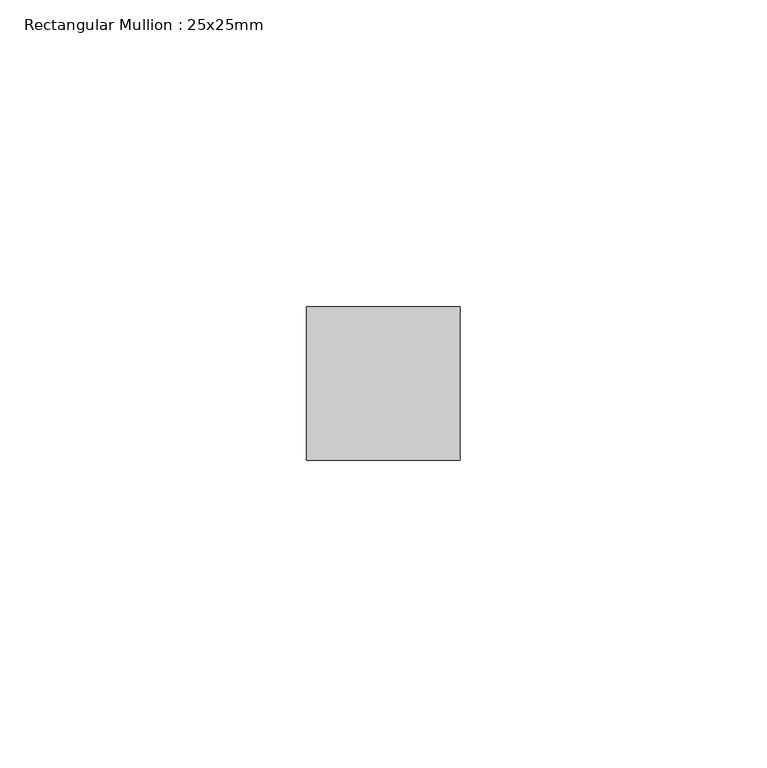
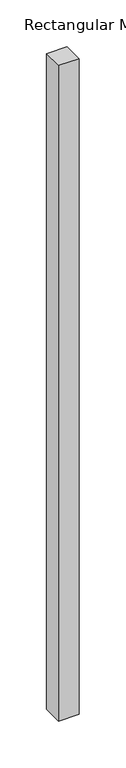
"""IFC4 building model written with IfcOpenShell, lengths in millimetres: member geometry, Rectangular Mullion : 25x25mm."""

from ifc_helpers import new_model, si_unit, frame, origin, place, context, project, spatial, polyline, outline, extrude, source, transform, mapped, element, save


def rectangular_mullion_25x25mm_ea16d22e(model_context):
    return source(origin(), model_context, "Body", "SweptSolid", [
        extrude(outline(polyline([(0.0, 0.5), (0.0, -24.5), (-25.0, -24.5), (-25.0, 0.5), (0.0, 0.5)])), frame((0.0, 0.0, -851.9300002), z_axis=(0.0, 0.0, 1.0), x_axis=(1.0, 0.0, 0.0)), (0.0, 0.0, 1.0), 851.9300002),
    ])


if __name__ == "__main__":
    model = new_model("IFC4")
    model_context = context("Model", 3, world=origin())
    ifc_project = project(units=[si_unit("LENGTHUNIT", "METRE", prefix="MILLI")], contexts=[model_context])
    site = spatial("IfcSite", under=ifc_project)
    building = spatial("IfcBuilding", under=site)
    placement = place(None, origin())
    rectangular_mullion_25x25mm_shape = rectangular_mullion_25x25mm_ea16d22e(model_context)
    element("IfcMember", 1, ObjectType="Rectangular Mullion : 25x25mm", at=placement, inside=building, context=model_context, shape_type="MappedRepresentation", body=[
        mapped(rectangular_mullion_25x25mm_shape, transform((0.0, 0.0, 0.0), x_axis=(1.0, 0.0, 0.0), y_axis=(0.0, 1.0, 0.0), z_axis=(0.0, 0.0, 1.0))),
    ])
    save(model, "model.ifc")
